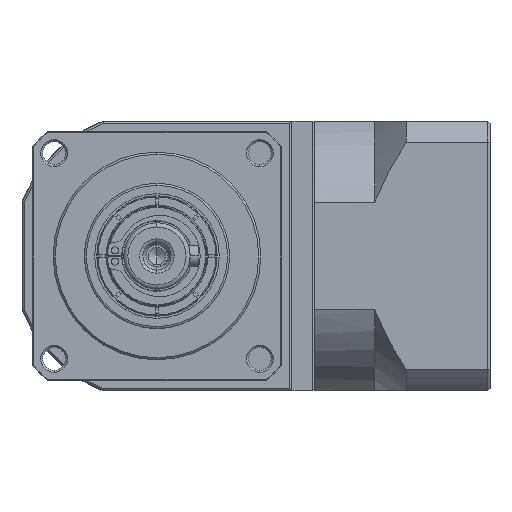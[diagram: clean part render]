
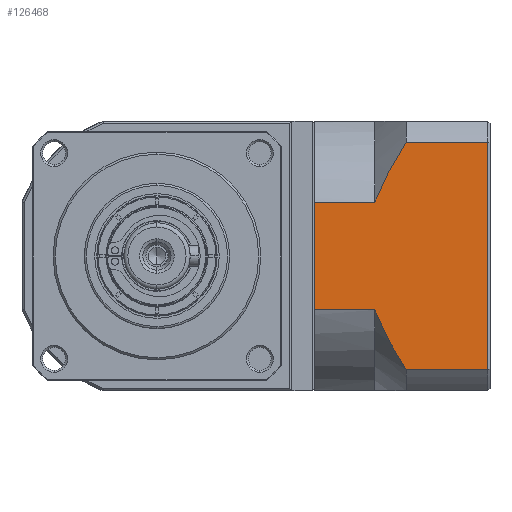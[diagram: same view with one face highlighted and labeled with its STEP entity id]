
A CAD part, left-side view. The second image highlights one B-rep face of the part: STEP entity #126468.
In plain terms, the highlighted planar face has unit normal (-1, 0, 0).
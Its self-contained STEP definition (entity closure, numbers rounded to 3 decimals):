
#493 = LINE ( 'NONE', #76608, #157365 ) ;
#1094 = CARTESIAN_POINT ( 'NONE',  ( -16.287, -57.063, -141.553 ) ) ;
#5214 = CARTESIAN_POINT ( 'NONE',  ( -16.287, -62.423, -96.156 ) ) ;
#6749 = VECTOR ( 'NONE', #12025, 1000. ) ;
#12025 = DIRECTION ( 'NONE',  ( 0., 1., 0. ) ) ;
#12985 = CARTESIAN_POINT ( 'NONE',  ( -16.287, -54.923, -136.533 ) ) ;
#13523 = CARTESIAN_POINT ( 'NONE',  ( -16.287, -59.573, -146.346 ) ) ;
#13559 = DIRECTION ( 'NONE',  ( 0., 0., 1. ) ) ;
#16428 = LINE ( 'NONE', #116979, #82398 ) ;
#17633 = ORIENTED_EDGE ( 'NONE', *, *, #96442, .T. ) ;
#24467 = CARTESIAN_POINT ( 'NONE',  ( -16.287, -54.923, -150.928 ) ) ;
#25823 = CARTESIAN_POINT ( 'NONE',  ( -16.287, -54.923, -110.552 ) ) ;
#25979 = CARTESIAN_POINT ( 'NONE',  ( -16.287, -62.423, -150.928 ) ) ;
#29573 = DIRECTION ( 'NONE',  ( 1., 0., 0. ) ) ;
#33914 = LINE ( 'NONE', #127122, #66848 ) ;
#35691 = FACE_OUTER_BOUND ( 'NONE', #136500, .T. ) ;
#39376 = EDGE_CURVE ( 'NONE', #79066, #89290, #138509, .T. ) ;
#40442 = DIRECTION ( 'NONE',  ( 0., 0., -1. ) ) ;
#40814 = B_SPLINE_CURVE_WITH_KNOTS ( 'NONE', 3,
 ( #12985, #87236, #62872, #149409, #75352, #1094, #87771, #13523, #100306, #25979 ),
 .UNSPECIFIED., .F., .F.,
 ( 4, 2, 2, 2, 4 ),
 ( 0.101, 0.103, 0.105, 0.109, 0.117 ),
 .UNSPECIFIED. ) ;
#42587 = CARTESIAN_POINT ( 'NONE',  ( -16.287, -60.974, -98.445 ) ) ;
#42673 = DIRECTION ( 'NONE',  ( 0., -1., 0. ) ) ;
#46439 = ORIENTED_EDGE ( 'NONE', *, *, #39376, .F. ) ;
#49516 = DIRECTION ( 'NONE',  ( 0., 1., 0. ) ) ;
#50997 = CARTESIAN_POINT ( 'NONE',  ( -16.287, -82.123, -156.042 ) ) ;
#51773 = EDGE_CURVE ( 'NONE', #90733, #129635, #33914, .T. ) ;
#54985 = CARTESIAN_POINT ( 'NONE',  ( -16.287, -40.423, -110.552 ) ) ;
#55053 = CARTESIAN_POINT ( 'NONE',  ( -16.287, -58.919, -101.966 ) ) ;
#56249 = LINE ( 'NONE', #50997, #77661 ) ;
#61260 = B_SPLINE_CURVE_WITH_KNOTS ( 'NONE', 3,
 ( #5214, #104444, #42587, #129264, #55053, #141595, #67533, #154056 ),
 .UNSPECIFIED., .F., .F.,
 ( 4, 2, 2, 4 ),
 ( 0.058, 0.062, 0.066, 0.074 ),
 .UNSPECIFIED. ) ;
#62872 = CARTESIAN_POINT ( 'NONE',  ( -16.287, -55.413, -137.814 ) ) ;
#66848 = VECTOR ( 'NONE', #40442, 1000. ) ;
#67214 = LINE ( 'NONE', #74985, #100272 ) ;
#67533 = CARTESIAN_POINT ( 'NONE',  ( -16.287, -55.865, -108.014 ) ) ;
#67884 = ORIENTED_EDGE ( 'NONE', *, *, #156473, .T. ) ;
#71822 = ORIENTED_EDGE ( 'NONE', *, *, #98610, .F. ) ;
#74985 = CARTESIAN_POINT ( 'NONE',  ( -16.287, -54.923, -136.533 ) ) ;
#75352 = CARTESIAN_POINT ( 'NONE',  ( -16.287, -56.213, -139.699 ) ) ;
#76062 = DIRECTION ( 'NONE',  ( 0., -1., 0. ) ) ;
#76608 = CARTESIAN_POINT ( 'NONE',  ( -16.287, -54.923, -96.156 ) ) ;
#77661 = VECTOR ( 'NONE', #13559, 1000. ) ;
#78854 = EDGE_CURVE ( 'NONE', #97626, #97021, #493, .T. ) ;
#79066 = VERTEX_POINT ( 'NONE', #116625 ) ;
#82398 = VECTOR ( 'NONE', #42673, 1000. ) ;
#87236 = CARTESIAN_POINT ( 'NONE',  ( -16.287, -55.161, -137.175 ) ) ;
#87771 = CARTESIAN_POINT ( 'NONE',  ( -16.287, -57.668, -142.765 ) ) ;
#89290 = VERTEX_POINT ( 'NONE', #112916 ) ;
#90733 = VERTEX_POINT ( 'NONE', #54985 ) ;
#92334 = VERTEX_POINT ( 'NONE', #121656 ) ;
#95578 = VERTEX_POINT ( 'NONE', #25823 ) ;
#96442 = EDGE_CURVE ( 'NONE', #92334, #89290, #40814, .T. ) ;
#97021 = VERTEX_POINT ( 'NONE', #144011 ) ;
#97626 = VERTEX_POINT ( 'NONE', #139941 ) ;
#98610 = EDGE_CURVE ( 'NONE', #90733, #95578, #16428, .T. ) ;
#98952 = ORIENTED_EDGE ( 'NONE', *, *, #117277, .T. ) ;
#100272 = VECTOR ( 'NONE', #49516, 1000. ) ;
#100306 = CARTESIAN_POINT ( 'NONE',  ( -16.287, -60.961, -148.66 ) ) ;
#103879 = CARTESIAN_POINT ( 'NONE',  ( -16.287, -82.623, -156.042 ) ) ;
#104444 = CARTESIAN_POINT ( 'NONE',  ( -16.287, -61.689, -97.294 ) ) ;
#112916 = CARTESIAN_POINT ( 'NONE',  ( -16.287, -62.423, -150.928 ) ) ;
#116332 = DIRECTION ( 'NONE',  ( 0., 1., 0. ) ) ;
#116625 = CARTESIAN_POINT ( 'NONE',  ( -16.287, -82.123, -150.928 ) ) ;
#116979 = CARTESIAN_POINT ( 'NONE',  ( -16.287, -54.923, -110.552 ) ) ;
#117277 = EDGE_CURVE ( 'NONE', #79066, #97021, #56249, .T. ) ;
#118300 = ORIENTED_EDGE ( 'NONE', *, *, #78854, .F. ) ;
#121656 = CARTESIAN_POINT ( 'NONE',  ( -16.287, -54.923, -136.533 ) ) ;
#126468 = ADVANCED_FACE ( 'NONE', ( #35691 ), #128158, .F. ) ;
#127122 = CARTESIAN_POINT ( 'NONE',  ( -16.287, -40.423, -156.042 ) ) ;
#128158 = PLANE ( 'NONE',  #143795 ) ;
#129264 = CARTESIAN_POINT ( 'NONE',  ( -16.287, -59.59, -100.78 ) ) ;
#129635 = VERTEX_POINT ( 'NONE', #134322 ) ;
#130023 = ORIENTED_EDGE ( 'NONE', *, *, #146089, .F. ) ;
#134322 = CARTESIAN_POINT ( 'NONE',  ( -16.287, -40.423, -136.533 ) ) ;
#136500 = EDGE_LOOP ( 'NONE', ( #46439, #98952, #118300, #67884, #71822, #153074, #130023, #17633 ) ) ;
#138509 = LINE ( 'NONE', #24467, #6749 ) ;
#139941 = CARTESIAN_POINT ( 'NONE',  ( -16.287, -62.423, -96.156 ) ) ;
#141595 = CARTESIAN_POINT ( 'NONE',  ( -16.287, -57.009, -105.562 ) ) ;
#143795 = AXIS2_PLACEMENT_3D ( 'NONE', #103879, #29573, #116332 ) ;
#144011 = CARTESIAN_POINT ( 'NONE',  ( -16.287, -82.123, -96.156 ) ) ;
#146089 = EDGE_CURVE ( 'NONE', #92334, #129635, #67214, .T. ) ;
#149409 = CARTESIAN_POINT ( 'NONE',  ( -16.287, -55.939, -139.075 ) ) ;
#153074 = ORIENTED_EDGE ( 'NONE', *, *, #51773, .T. ) ;
#154056 = CARTESIAN_POINT ( 'NONE',  ( -16.287, -54.923, -110.552 ) ) ;
#156473 = EDGE_CURVE ( 'NONE', #97626, #95578, #61260, .T. ) ;
#157365 = VECTOR ( 'NONE', #76062, 1000. ) ;
